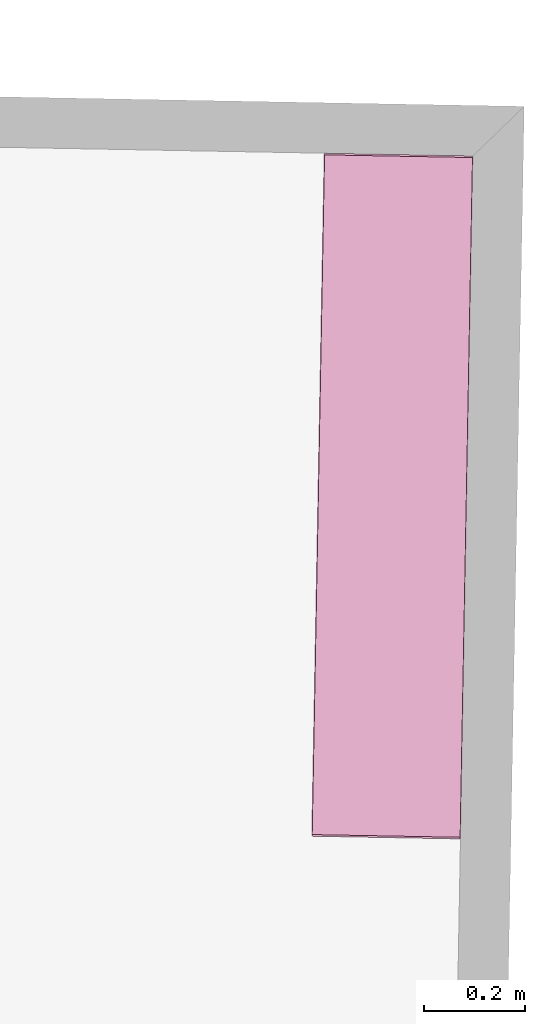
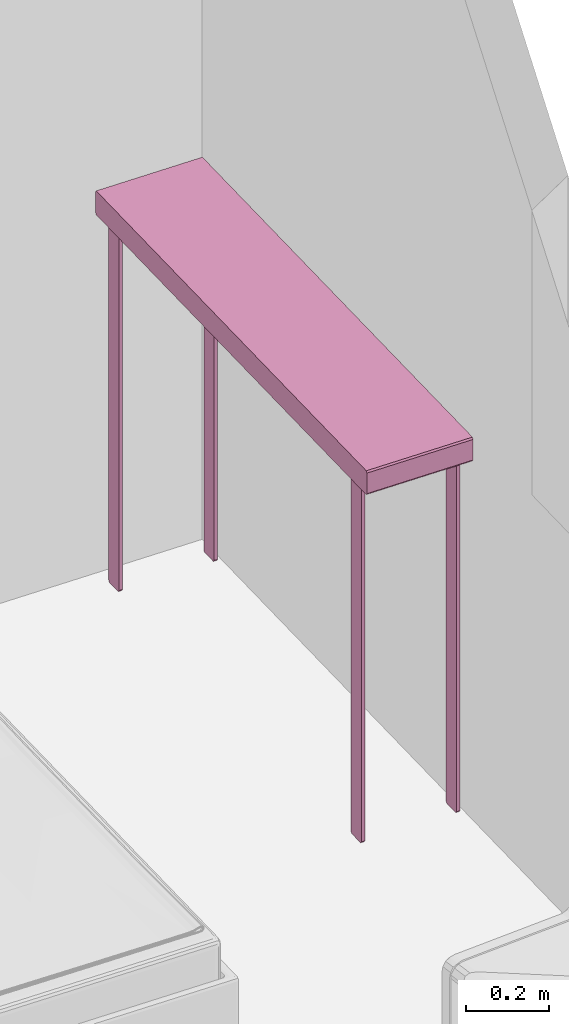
# One storey, part 7 of 9: 1 furnishing.
"""IFC2X3 building model written with IfcOpenShell, lengths in metres."""

import ifcopenshell
import ifcopenshell.guid

model = None  # the IFC model being written
_history = None  # IfcOwnerHistory: only IFC2X3 demands one
_inside = {}  # id of a spatial element -> (the spatial element, [elements in it])
_under = {}  # id of a project, library or spatial element -> (it, [spatial elements below it])
_declared = {}  # id of a project -> (the project, [libraries it declares])
_typed = {}  # id of a type object -> (the type object, [elements of that type])
_made_of = {}  # id of a material, layer set ... -> (it, [elements and type objects made of it])


def new_model(schema):
    """Start an empty IFC model of exactly this schema.

    Asked for "IFC4X3", IfcOpenShell would pick the latest addendum, in which some entities
    have other attributes; the version numbers below select the first issue.
    IFC2X3 requires an IfcOwnerHistory on every rooted entity: one is made here for all.
    """
    global model, _history
    if schema == "IFC4X3":
        model = ifcopenshell.file(schema_version=(4, 3, 0, 0))
    else:
        model = ifcopenshell.file(schema=schema)
    _inside.clear()
    _under.clear()
    _declared.clear()
    _typed.clear()
    _made_of.clear()
    _history = None
    if model.schema == "IFC2X3":
        org = make("IfcOrganization", Name="unknown")
        user = make(
            "IfcPersonAndOrganization",
            ThePerson=make("IfcPerson", FamilyName="unknown"),
            TheOrganization=org,
        )
        app = make(
            "IfcApplication",
            ApplicationDeveloper=org,
            Version="unknown",
            ApplicationFullName="unknown",
            ApplicationIdentifier="unknown",
        )
        _history = make(
            "IfcOwnerHistory",
            OwningUser=user,
            OwningApplication=app,
            ChangeAction="ADDED",
            CreationDate=0,
        )
    return model


def make(cls, **values):
    """One entity of the class cls with the attributes given. An attribute that is None is left unset."""
    return model.create_entity(
        cls, **{name: value for name, value in values.items() if value is not None}
    )


def rooted(cls, **values):
    """An entity with a GlobalId (a new one), such as an element, a storey or a relation."""
    return make(cls, GlobalId=ifcopenshell.guid.new(), OwnerHistory=_history, **values)


def si_unit(unit_type, name, prefix=None):
    """IfcSIUnit, for example si_unit("LENGTHUNIT", "METRE", prefix="MILLI")."""
    return make("IfcSIUnit", UnitType=unit_type, Prefix=prefix, Name=name)


def assignment(units):
    """IfcUnitAssignment: the units of a project."""
    return None if units is None else make("IfcUnitAssignment", Units=units)


def point(xyz):
    """IfcCartesianPoint."""
    return None if xyz is None else make("IfcCartesianPoint", Coordinates=xyz)


def direction(xyz):
    """IfcDirection."""
    return None if xyz is None else make("IfcDirection", DirectionRatios=xyz)


def frame(location, z_axis=None, x_axis=None):
    """IfcAxis2Placement3D, a coordinate frame: its origin and axes. An axis left out is left unset."""
    return make(
        "IfcAxis2Placement3D",
        Location=point(location),
        Axis=direction(z_axis),
        RefDirection=direction(x_axis),
    )


def origin_with_axes():
    """The frame at (0, 0, 0) with the z axis (0, 0, 1) and the x axis (1, 0, 0) written out."""
    return frame((0.0, 0.0, 0.0), z_axis=(0.0, 0.0, 1.0), x_axis=(1.0, 0.0, 0.0))


def place(relative_to, where):
    """IfcLocalPlacement: puts the frame where relative to a parent placement (None: the world)."""
    return make(
        "IfcLocalPlacement", PlacementRelTo=relative_to, RelativePlacement=where
    )


def context(
    kind, dimensions, precision=None, world=None, true_north=None, identifier=None
):
    """IfcGeometricRepresentationContext, for example the 3D "Model" context."""
    return make(
        "IfcGeometricRepresentationContext",
        ContextIdentifier=identifier,
        ContextType=kind,
        CoordinateSpaceDimension=dimensions,
        Precision=precision,
        WorldCoordinateSystem=world,
        TrueNorth=true_north,
    )


def project(units=None, contexts=None):
    """IfcProject with its units and contexts."""
    return rooted(
        "IfcProject",
        Name="project",
        RepresentationContexts=contexts,
        UnitsInContext=assignment(units),
    )


def spatial(cls, under=None, at=None, **own):
    """A site, building, storey or space (cls), placed at a placement, below another one or the project."""
    s = rooted(cls, ObjectPlacement=at, **own)
    if under is not None:
        _under.setdefault(under.id(), (under, []))[1].append(s)
    return s


def faces_of(points, faces, orient=None, outer=None):
    """IfcFace entities. A face is a list of loops; a loop is a list of indices into points, from 0.

    orient and outer hold one flag for each loop. By default every Orientation is true, the
    first loop of a face is its IfcFaceOuterBound and the others are IfcFaceBound.
    """
    made = []
    for i, loops in enumerate(faces):
        bounds = []
        for j, loop in enumerate(loops):
            is_outer = j == 0 if outer is None else outer[i][j]
            bounds.append(
                make(
                    "IfcFaceOuterBound" if is_outer else "IfcFaceBound",
                    Bound=make("IfcPolyLoop", Polygon=[points[k] for k in loop]),
                    Orientation=True if orient is None else orient[i][j],
                )
            )
        made.append(make("IfcFace", Bounds=bounds))
    return made


def faceted_brep(points, faces, orient=None, outer=None, voids=None):
    """IfcFacetedBrep: a solid bounded by flat faces; with voids (closed shells), ...WithVoids."""
    shared = [point(p) for p in points]
    hull = make("IfcClosedShell", CfsFaces=faces_of(shared, faces, orient, outer))
    if voids is None:
        return make("IfcFacetedBrep", Outer=hull)
    return make(
        "IfcFacetedBrepWithVoids",
        Outer=hull,
        Voids=[
            make(cls, CfsFaces=faces_of(shared, fs, o, b)) for cls, fs, o, b in voids
        ],
    )


def shape(context_of_items, identifier, shape_type, items):
    """IfcShapeRepresentation: the items that make up one representation, for example the "Body"."""
    return make(
        "IfcShapeRepresentation",
        ContextOfItems=context_of_items,
        RepresentationIdentifier=identifier,
        RepresentationType=shape_type,
        Items=items,
    )


def made_of(thing, what):
    """Note that an element or type object is made of a material, layer set ...; save() writes the relation."""
    if what is not None:
        _made_of.setdefault(what.id(), (what, []))[1].append(thing)
    return thing


def type_object(cls, material=None, **own):
    """A type object (cls), such as IfcWallType, which elements share."""
    return made_of(rooted(cls, **own), material)


def element(
    cls,
    number,
    at=None,
    inside=None,
    cuts=None,
    type_object=None,
    material=None,
    context=None,
    identifier="Body",
    shape_type=None,
    held_by="IfcProductDefinitionShape",
    body=None,
    shapes=None,
    **own,
):
    """One element of the class cls, such as IfcWall. Its Tag is "e" and its number.

    at: its placement. inside: the storey or other place that contains it. cuts: it is an
    opening in that element (IfcRelVoidsElement). A single representation is given by context,
    identifier, shape_type and body (its items); several are given by shapes. held_by: the class
    of the entity that holds the representations. save() writes the other relations.
    """
    e = rooted(cls, Tag="e%d" % number, ObjectPlacement=at, **own)
    if body is not None:
        shapes = [shape(context, identifier, shape_type, body)]
    if shapes is not None:
        e.Representation = make(held_by, Representations=shapes)
    if inside is not None:
        _inside.setdefault(inside.id(), (inside, []))[1].append(e)
    if cuts is not None:
        rooted(
            "IfcRelVoidsElement", RelatingBuildingElement=cuts, RelatedOpeningElement=e
        )
    if type_object is not None:
        _typed.setdefault(type_object.id(), (type_object, []))[1].append(e)
    return made_of(e, material)


def aggregate(whole, parts):
    """IfcRelAggregates: a whole, such as a stair, and the parts it consists of."""
    return rooted("IfcRelAggregates", RelatingObject=whole, RelatedObjects=parts)


def save(model, path):
    """Write the relations noted so far, then the file.

    IfcRelAggregates (storeys below a building ...), IfcRelContainedInSpatialStructure (elements
    in a storey), IfcRelDefinesByType, IfcRelAssociatesMaterial and IfcRelDeclares: one each for
    every whole, place, type object, material and project.
    """
    for whole, parts in _under.values():
        aggregate(whole, parts)
    for where, things in _inside.values():
        rooted(
            "IfcRelContainedInSpatialStructure",
            RelatedElements=things,
            RelatingStructure=where,
        )
    for kind, things in _typed.values():
        rooted("IfcRelDefinesByType", RelatedObjects=things, RelatingType=kind)
    for what, things in _made_of.values():
        rooted("IfcRelAssociatesMaterial", RelatedObjects=things, RelatingMaterial=what)
    for by, libraries in _declared.values():
        rooted("IfcRelDeclares", RelatingContext=by, RelatedDefinitions=libraries)
    model.write(path)


model = new_model("IFC2X3")

# Units and contexts
model_context = context("Model", 3, precision=1e-05, world=origin_with_axes())
ifc_project = project(units=[si_unit("AREAUNIT", "SQUARE_METRE"), si_unit("LENGTHUNIT", "METRE")], contexts=[model_context])

# Site, building, storey, space
site_placement = place(None, origin_with_axes())
site = spatial("IfcSite", under=ifc_project, at=site_placement, Name="Site", CompositionType="ELEMENT")
building_placement = place(site_placement, origin_with_axes())
building = spatial("IfcBuilding", under=site, at=building_placement, Name="Building", CompositionType="ELEMENT")
storey_placement = place(building_placement, frame((0.0, 0.0, 5.74363407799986), z_axis=(0.0, 0.0, 1.0), x_axis=(1.0, 0.0, 0.0)))
storey = spatial("IfcBuildingStorey", under=building, at=storey_placement, Name="Story 2", CompositionType="ELEMENT", Elevation=5.7436338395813)
space_placement = place(storey_placement, frame((1.55833263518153, -1.03268257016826, 0.0), z_axis=(0.0, 0.0, 1.0), x_axis=(1.0, 0.0, 0.0)))
space = spatial("IfcSpace", under=storey, at=space_placement, Name="013", CompositionType="ELEMENT", InteriorOrExteriorSpace="INTERNAL")

# Furnishing
furniture_type = type_object("IfcFurnitureType", Name="23a3cf47-1044-4fda-8446-77eb6de47aa9")
furnishing_placement = place(space_placement, frame((-0.0966348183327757, 2.8592943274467, 0.565037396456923), z_axis=(0.0, 0.0, 0.999999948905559), x_axis=(-0.999834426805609, 0.0181990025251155, 0.0)))
element("IfcFurnishingElement", 1, at=furnishing_placement, inside=space, type_object=furniture_type, Name="Table", ObjectType="Table", context=model_context, shape_type="Brep", body=[
    faceted_brep([(0.1467, 0.6774, 0.4995), (-0.1467, 0.6774, 0.4995), (0.1467, 0.6774, 0.5601), (-0.1467, 0.6774, 0.5601), (0.1467, 0.6774, 0.5601), (-0.1467, 0.6774, 0.4995), (0.1258, -0.6273, 0.5122), (0.1258, -0.5828, 0.5122), (0.1258, -0.6273, -0.5601), (0.1258, -0.5828, -0.5601), (0.1258, -0.6273, -0.5601), (0.1258, -0.5828, 0.5122), (0.1362, -0.6306, 0.5122), (0.1265, -0.6306, 0.5122), (0.1362, -0.6306, -0.5601), (0.1265, -0.6306, -0.5601), (0.1362, -0.6306, -0.5601), (0.1265, -0.6306, 0.5122), (0.1369, -0.5828, 0.5122), (0.1369, -0.6273, 0.5122), (0.1369, -0.5828, -0.5601), (0.1369, -0.6273, -0.5601), (0.1369, -0.5828, -0.5601), (0.1369, -0.6273, 0.5122), (0.1265, -0.5794, 0.5122), (0.1362, -0.5794, 0.5122), (0.1265, -0.5794, -0.5601), (0.1362, -0.5794, -0.5601), (0.1265, -0.5794, -0.5601), (0.1362, -0.5794, 0.5122), (0.1258, 0.6273, 0.5122), (0.1258, 0.6273, -0.5601), (0.1258, 0.5828, 0.5122), (0.1258, 0.5828, -0.5601), (0.1258, 0.5828, 0.5122), (0.1258, 0.6273, -0.5601), (0.1362, 0.6306, 0.5122), (0.1362, 0.6306, -0.5601), (0.1265, 0.6306, 0.5122), (0.1265, 0.6306, -0.5601), (0.1265, 0.6306, 0.5122), (0.1362, 0.6306, -0.5601), (0.1369, 0.5828, 0.5122), (0.1369, 0.5828, -0.5601), (0.1369, 0.6273, 0.5122), (0.1369, 0.6273, -0.5601), (0.1369, 0.6273, 0.5122), (0.1369, 0.5828, -0.5601), (0.1265, 0.5794, 0.5122), (0.1265, 0.5794, -0.5601), (0.1362, 0.5794, 0.5122), (0.1362, 0.5794, -0.5601), (0.1362, 0.5794, 0.5122), (0.1265, 0.5794, -0.5601), (0.1475, 0.6741, 0.4995), (0.1475, 0.6741, 0.5601), (0.1475, -0.6741, 0.4995), (0.1475, -0.6741, 0.5601), (0.1475, -0.6741, 0.4995), (0.1475, 0.6741, 0.5601), (-0.1475, 0.6741, 0.5601), (-0.1475, 0.6741, 0.4995), (-0.1475, -0.6741, 0.5601), (-0.1475, -0.6741, 0.4995), (-0.1475, -0.6741, 0.5601), (-0.1475, 0.6741, 0.4995), (-0.1258, -0.6273, 0.5122), (-0.1258, -0.6273, -0.5601), (-0.1258, -0.5828, 0.5122), (-0.1258, -0.5828, -0.5601), (-0.1258, -0.5828, 0.5122), (-0.1258, -0.6273, -0.5601), (-0.1362, -0.6306, 0.5122), (-0.1362, -0.6306, -0.5601), (-0.1265, -0.6306, 0.5122), (-0.1265, -0.6306, -0.5601), (-0.1265, -0.6306, 0.5122), (-0.1362, -0.6306, -0.5601), (-0.1369, -0.5828, 0.5122), (-0.1369, -0.5828, -0.5601), (-0.1369, -0.6273, 0.5122), (-0.1369, -0.6273, -0.5601), (-0.1369, -0.6273, 0.5122), (-0.1369, -0.5828, -0.5601), (-0.1265, -0.5794, 0.5122), (-0.1265, -0.5794, -0.5601), (-0.1362, -0.5794, 0.5122), (-0.1362, -0.5794, -0.5601), (-0.1362, -0.5794, 0.5122), (-0.1265, -0.5794, -0.5601), (-0.1258, 0.6273, 0.5122), (-0.1258, 0.5828, 0.5122), (-0.1258, 0.6273, -0.5601), (-0.1258, 0.5828, -0.5601), (-0.1258, 0.6273, -0.5601), (-0.1258, 0.5828, 0.5122), (-0.1362, 0.6306, 0.5122), (-0.1265, 0.6306, 0.5122), (-0.1362, 0.6306, -0.5601), (-0.1265, 0.6306, -0.5601), (-0.1362, 0.6306, -0.5601), (-0.1265, 0.6306, 0.5122), (-0.1369, 0.5828, 0.5122), (-0.1369, 0.6273, 0.5122), (-0.1369, 0.5828, -0.5601), (-0.1369, 0.6273, -0.5601), (-0.1369, 0.5828, -0.5601), (-0.1369, 0.6273, 0.5122), (-0.1265, 0.5794, 0.5122), (-0.1362, 0.5794, 0.5122), (-0.1265, 0.5794, -0.5601), (-0.1362, 0.5794, -0.5601), (-0.1265, 0.5794, -0.5601), (-0.1362, 0.5794, 0.5122), (-0.1467, 0.6741, 0.565), (-0.1467, -0.6741, 0.565), (0.1467, 0.6741, 0.565), (0.1467, -0.6741, 0.565), (0.1467, 0.6741, 0.565), (-0.1467, -0.6741, 0.565), (0.1467, -0.6774, 0.4995), (0.1467, -0.6774, 0.5601), (-0.1467, -0.6774, 0.4995), (-0.1467, -0.6774, 0.5601), (-0.1467, -0.6774, 0.4995), (0.1467, -0.6774, 0.5601), (0.1467, -0.6741, 0.4945), (-0.1467, -0.6741, 0.4945), (0.1467, 0.6741, 0.4945), (-0.1467, 0.6741, 0.4945), (0.1467, 0.6741, 0.4945), (-0.1467, -0.6741, 0.4945), (0.1362, -0.6273, 0.5172), (0.1362, -0.5828, 0.5172), (0.1265, -0.6273, 0.5172), (0.1265, -0.5828, 0.5172), (0.1265, -0.6273, 0.5172), (0.1362, -0.5828, 0.5172), (0.1362, -0.5828, -0.565), (0.1362, -0.6273, -0.565), (0.1265, -0.5828, -0.565), (0.1265, -0.6273, -0.565), (0.1265, -0.5828, -0.565), (0.1362, -0.6273, -0.565), (0.1362, 0.6273, -0.565), (0.1362, 0.5828, -0.565), (0.1265, 0.6273, -0.565), (0.1265, 0.5828, -0.565), (0.1265, 0.6273, -0.565), (0.1362, 0.5828, -0.565), (0.1362, 0.5828, 0.5172), (0.1362, 0.6273, 0.5172), (0.1265, 0.5828, 0.5172), (0.1265, 0.6273, 0.5172), (0.1265, 0.5828, 0.5172), (0.1362, 0.6273, 0.5172), (-0.1362, -0.6273, -0.565), (-0.1362, -0.5828, -0.565), (-0.1265, -0.6273, -0.565), (-0.1265, -0.5828, -0.565), (-0.1265, -0.6273, -0.565), (-0.1362, -0.5828, -0.565), (-0.1362, -0.5828, 0.5172), (-0.1362, -0.6273, 0.5172), (-0.1265, -0.5828, 0.5172), (-0.1265, -0.6273, 0.5172), (-0.1265, -0.5828, 0.5172), (-0.1362, -0.6273, 0.5172), (-0.1362, 0.6273, 0.5172), (-0.1362, 0.5828, 0.5172), (-0.1265, 0.6273, 0.5172), (-0.1265, 0.5828, 0.5172), (-0.1265, 0.6273, 0.5172), (-0.1362, 0.5828, 0.5172), (-0.1362, 0.5828, -0.565), (-0.1362, 0.6273, -0.565), (-0.1265, 0.5828, -0.565), (-0.1265, 0.6273, -0.565), (-0.1265, 0.5828, -0.565), (-0.1362, 0.6273, -0.565), (-0.1467, 0.6741, 0.565), (-0.1467, 0.6774, 0.5601), (-0.1475, 0.6741, 0.5601), (0.1265, -0.5828, -0.565), (0.1258, -0.5828, -0.5601), (0.1265, -0.5794, -0.5601), (0.1265, -0.6273, -0.565), (0.1265, -0.6306, -0.5601), (0.1258, -0.6273, -0.5601), (0.1362, -0.6273, -0.565), (0.1369, -0.6273, -0.5601), (0.1362, -0.6306, -0.5601), (0.1362, -0.5828, -0.565), (0.1362, -0.5794, -0.5601), (0.1369, -0.5828, -0.5601), (0.1265, -0.5828, 0.5172), (0.1265, -0.5794, 0.5122), (0.1258, -0.5828, 0.5122), (0.1265, 0.5794, -0.5601), (0.1258, 0.5828, -0.5601), (0.1265, 0.5828, -0.565), (0.1265, 0.6273, 0.5172), (0.1265, 0.6306, 0.5122), (0.1258, 0.6273, 0.5122), (0.1362, 0.6273, 0.5172), (0.1369, 0.6273, 0.5122), (0.1362, 0.6306, 0.5122), (0.1362, 0.5828, 0.5172), (0.1362, 0.5794, 0.5122), (0.1369, 0.5828, 0.5122), (0.1467, -0.6774, 0.5601), (0.1475, -0.6741, 0.5601), (0.1467, -0.6741, 0.565), (0.1467, 0.6741, 0.565), (0.1475, 0.6741, 0.5601), (0.1467, 0.6774, 0.5601), (-0.1467, -0.6774, 0.4995), (-0.1475, -0.6741, 0.4995), (-0.1467, -0.6741, 0.4945), (-0.1467, 0.6741, 0.4945), (-0.1475, 0.6741, 0.4995), (-0.1467, 0.6774, 0.4995), (-0.1265, -0.5794, -0.5601), (-0.1258, -0.5828, -0.5601), (-0.1265, -0.5828, -0.565), (-0.1265, -0.6273, 0.5172), (-0.1265, -0.6306, 0.5122), (-0.1258, -0.6273, 0.5122), (-0.1362, -0.6273, 0.5172), (-0.1369, -0.6273, 0.5122), (-0.1362, -0.6306, 0.5122), (-0.1362, -0.5828, 0.5172), (-0.1362, -0.5794, 0.5122), (-0.1369, -0.5828, 0.5122), (-0.1265, 0.5828, -0.565), (-0.1258, 0.5828, -0.5601), (-0.1265, 0.5794, -0.5601), (-0.1265, 0.6273, -0.565), (-0.1265, 0.6306, -0.5601), (-0.1258, 0.6273, -0.5601), (-0.1362, 0.6273, -0.565), (-0.1369, 0.6273, -0.5601), (-0.1362, 0.6306, -0.5601), (-0.1362, 0.5828, -0.565), (-0.1362, 0.5794, -0.5601), (-0.1369, 0.5828, -0.5601), (-0.1265, 0.5828, 0.5172), (-0.1265, 0.5794, 0.5122), (-0.1258, 0.5828, 0.5122), (-0.1467, -0.6774, 0.5601), (-0.1467, -0.6741, 0.565), (-0.1475, -0.6741, 0.5601), (0.1467, -0.6774, 0.4995), (0.1467, -0.6741, 0.4945), (0.1475, -0.6741, 0.4995), (0.1475, 0.6741, 0.4995), (0.1467, 0.6741, 0.4945), (0.1467, 0.6774, 0.4995), (0.1362, -0.5794, 0.5122), (0.1362, -0.5828, 0.5172), (0.1369, -0.5828, 0.5122), (0.1369, -0.6273, 0.5122), (0.1362, -0.6273, 0.5172), (0.1362, -0.6306, 0.5122), (0.1265, -0.6306, 0.5122), (0.1265, -0.6273, 0.5172), (0.1258, -0.6273, 0.5122), (0.1362, 0.5794, -0.5601), (0.1362, 0.5828, -0.565), (0.1369, 0.5828, -0.5601), (0.1369, 0.6273, -0.5601), (0.1362, 0.6273, -0.565), (0.1362, 0.6306, -0.5601), (0.1265, 0.6306, -0.5601), (0.1265, 0.6273, -0.565), (0.1258, 0.6273, -0.5601), (0.1265, 0.5794, 0.5122), (0.1265, 0.5828, 0.5172), (0.1258, 0.5828, 0.5122), (-0.1362, -0.5794, -0.5601), (-0.1362, -0.5828, -0.565), (-0.1369, -0.5828, -0.5601), (-0.1369, -0.6273, -0.5601), (-0.1362, -0.6273, -0.565), (-0.1362, -0.6306, -0.5601), (-0.1265, -0.6306, -0.5601), (-0.1265, -0.6273, -0.565), (-0.1258, -0.6273, -0.5601), (-0.1265, -0.5794, 0.5122), (-0.1265, -0.5828, 0.5172), (-0.1258, -0.5828, 0.5122), (-0.1362, 0.5794, 0.5122), (-0.1362, 0.5828, 0.5172), (-0.1369, 0.5828, 0.5122), (-0.1369, 0.6273, 0.5122), (-0.1362, 0.6273, 0.5172), (-0.1362, 0.6306, 0.5122), (-0.1265, 0.6306, 0.5122), (-0.1265, 0.6273, 0.5172), (-0.1258, 0.6273, 0.5122), (-0.1467, 0.6774, 0.5601), (-0.1467, 0.6774, 0.4995), (-0.1475, 0.6741, 0.5601), (-0.1475, 0.6741, 0.4995), (-0.1475, 0.6741, 0.5601), (-0.1467, 0.6774, 0.4995), (-0.1467, 0.6774, 0.4995), (0.1467, 0.6774, 0.4995), (-0.1467, 0.6741, 0.4945), (0.1467, 0.6741, 0.4945), (-0.1467, 0.6741, 0.4945), (0.1467, 0.6774, 0.4995), (0.1467, 0.6774, 0.4995), (0.1467, 0.6774, 0.5601), (0.1475, 0.6741, 0.4995), (0.1475, 0.6741, 0.5601), (0.1475, 0.6741, 0.4995), (0.1467, 0.6774, 0.5601), (0.1467, 0.6774, 0.5601), (-0.1467, 0.6774, 0.5601), (0.1467, 0.6741, 0.565), (-0.1467, 0.6741, 0.565), (0.1467, 0.6741, 0.565), (-0.1467, 0.6774, 0.5601), (0.1258, -0.5828, -0.5601), (0.1258, -0.5828, 0.5122), (0.1265, -0.5794, -0.5601), (0.1265, -0.5794, 0.5122), (0.1265, -0.5794, -0.5601), (0.1258, -0.5828, 0.5122), (0.1258, -0.5828, 0.5122), (0.1258, -0.6273, 0.5122), (0.1265, -0.5828, 0.5172), (0.1265, -0.6273, 0.5172), (0.1265, -0.5828, 0.5172), (0.1258, -0.6273, 0.5122), (0.1258, -0.6273, 0.5122), (0.1258, -0.6273, -0.5601), (0.1265, -0.6306, 0.5122), (0.1265, -0.6306, -0.5601), (0.1265, -0.6306, 0.5122), (0.1258, -0.6273, -0.5601), (0.1258, -0.6273, -0.5601), (0.1258, -0.5828, -0.5601), (0.1265, -0.6273, -0.565), (0.1265, -0.5828, -0.565), (0.1265, -0.6273, -0.565), (0.1258, -0.5828, -0.5601), (0.1265, -0.6306, 0.5122), (0.1362, -0.6306, 0.5122), (0.1265, -0.6273, 0.5172), (0.1362, -0.6273, 0.5172), (0.1265, -0.6273, 0.5172), (0.1362, -0.6306, 0.5122), (0.1362, -0.6306, 0.5122), (0.1362, -0.6306, -0.5601), (0.1369, -0.6273, 0.5122), (0.1369, -0.6273, -0.5601), (0.1369, -0.6273, 0.5122), (0.1362, -0.6306, -0.5601), (0.1362, -0.6306, -0.5601), (0.1265, -0.6306, -0.5601), (0.1362, -0.6273, -0.565), (0.1265, -0.6273, -0.565), (0.1362, -0.6273, -0.565), (0.1265, -0.6306, -0.5601), (0.1369, -0.6273, 0.5122), (0.1369, -0.5828, 0.5122), (0.1362, -0.6273, 0.5172), (0.1362, -0.5828, 0.5172), (0.1362, -0.6273, 0.5172), (0.1369, -0.5828, 0.5122), (0.1369, -0.5828, 0.5122), (0.1369, -0.5828, -0.5601), (0.1362, -0.5794, 0.5122), (0.1362, -0.5794, -0.5601), (0.1362, -0.5794, 0.5122), (0.1369, -0.5828, -0.5601), (0.1369, -0.5828, -0.5601), (0.1369, -0.6273, -0.5601), (0.1362, -0.5828, -0.565), (0.1362, -0.6273, -0.565), (0.1362, -0.5828, -0.565), (0.1369, -0.6273, -0.5601), (0.1362, -0.5794, 0.5122), (0.1265, -0.5794, 0.5122), (0.1362, -0.5828, 0.5172), (0.1265, -0.5828, 0.5172), (0.1362, -0.5828, 0.5172), (0.1265, -0.5794, 0.5122), (0.1265, -0.5794, -0.5601), (0.1362, -0.5794, -0.5601), (0.1265, -0.5828, -0.565), (0.1362, -0.5828, -0.565), (0.1265, -0.5828, -0.565), (0.1362, -0.5794, -0.5601), (0.1258, 0.5828, -0.5601), (0.1258, 0.6273, -0.5601), (0.1265, 0.5828, -0.565), (0.1265, 0.6273, -0.565), (0.1265, 0.5828, -0.565), (0.1258, 0.6273, -0.5601), (0.1258, 0.6273, -0.5601), (0.1258, 0.6273, 0.5122), (0.1265, 0.6306, -0.5601), (0.1265, 0.6306, 0.5122), (0.1265, 0.6306, -0.5601), (0.1258, 0.6273, 0.5122), (0.1258, 0.6273, 0.5122), (0.1258, 0.5828, 0.5122), (0.1265, 0.6273, 0.5172), (0.1265, 0.5828, 0.5172), (0.1265, 0.6273, 0.5172), (0.1258, 0.5828, 0.5122), (0.1258, 0.5828, 0.5122), (0.1258, 0.5828, -0.5601), (0.1265, 0.5794, 0.5122), (0.1265, 0.5794, -0.5601), (0.1265, 0.5794, 0.5122), (0.1258, 0.5828, -0.5601), (0.1265, 0.6306, -0.5601), (0.1362, 0.6306, -0.5601), (0.1265, 0.6273, -0.565), (0.1362, 0.6273, -0.565), (0.1265, 0.6273, -0.565), (0.1362, 0.6306, -0.5601), (0.1362, 0.6306, -0.5601), (0.1362, 0.6306, 0.5122), (0.1369, 0.6273, -0.5601), (0.1369, 0.6273, 0.5122), (0.1369, 0.6273, -0.5601), (0.1362, 0.6306, 0.5122), (0.1362, 0.6306, 0.5122), (0.1265, 0.6306, 0.5122), (0.1362, 0.6273, 0.5172), (0.1265, 0.6273, 0.5172), (0.1362, 0.6273, 0.5172), (0.1265, 0.6306, 0.5122), (0.1369, 0.6273, -0.5601), (0.1369, 0.5828, -0.5601), (0.1362, 0.6273, -0.565), (0.1362, 0.5828, -0.565), (0.1362, 0.6273, -0.565), (0.1369, 0.5828, -0.5601), (0.1369, 0.5828, -0.5601), (0.1369, 0.5828, 0.5122), (0.1362, 0.5794, -0.5601), (0.1362, 0.5794, 0.5122), (0.1362, 0.5794, -0.5601), (0.1369, 0.5828, 0.5122), (0.1369, 0.5828, 0.5122), (0.1369, 0.6273, 0.5122), (0.1362, 0.5828, 0.5172), (0.1362, 0.6273, 0.5172), (0.1362, 0.5828, 0.5172), (0.1369, 0.6273, 0.5122), (0.1362, 0.5794, -0.5601), (0.1265, 0.5794, -0.5601), (0.1362, 0.5828, -0.565), (0.1265, 0.5828, -0.565), (0.1362, 0.5828, -0.565), (0.1265, 0.5794, -0.5601), (0.1265, 0.5794, 0.5122), (0.1362, 0.5794, 0.5122), (0.1265, 0.5828, 0.5172), (0.1362, 0.5828, 0.5172), (0.1265, 0.5828, 0.5172), (0.1362, 0.5794, 0.5122), (0.1475, -0.6741, 0.5601), (0.1475, 0.6741, 0.5601), (0.1467, -0.6741, 0.565), (0.1467, 0.6741, 0.565), (0.1467, -0.6741, 0.565), (0.1475, 0.6741, 0.5601), (0.1475, 0.6741, 0.4995), (0.1475, -0.6741, 0.4995), (0.1467, 0.6741, 0.4945), (0.1467, -0.6741, 0.4945), (0.1467, 0.6741, 0.4945), (0.1475, -0.6741, 0.4995), (0.1475, -0.6741, 0.4995), (0.1475, -0.6741, 0.5601), (0.1467, -0.6774, 0.4995), (0.1467, -0.6774, 0.5601), (0.1467, -0.6774, 0.4995), (0.1475, -0.6741, 0.5601), (-0.1475, -0.6741, 0.4995), (-0.1475, 0.6741, 0.4995), (-0.1467, -0.6741, 0.4945), (-0.1467, 0.6741, 0.4945), (-0.1467, -0.6741, 0.4945), (-0.1475, 0.6741, 0.4995), (-0.1475, 0.6741, 0.5601), (-0.1475, -0.6741, 0.5601), (-0.1467, 0.6741, 0.565), (-0.1467, -0.6741, 0.565), (-0.1467, 0.6741, 0.565), (-0.1475, -0.6741, 0.5601), (-0.1475, -0.6741, 0.5601), (-0.1475, -0.6741, 0.4995), (-0.1467, -0.6774, 0.5601), (-0.1467, -0.6774, 0.4995), (-0.1467, -0.6774, 0.5601), (-0.1475, -0.6741, 0.4995), (-0.1258, -0.5828, -0.5601), (-0.1258, -0.6273, -0.5601), (-0.1265, -0.5828, -0.565), (-0.1265, -0.6273, -0.565), (-0.1265, -0.5828, -0.565), (-0.1258, -0.6273, -0.5601), (-0.1258, -0.6273, -0.5601), (-0.1258, -0.6273, 0.5122), (-0.1265, -0.6306, -0.5601), (-0.1265, -0.6306, 0.5122), (-0.1265, -0.6306, -0.5601), (-0.1258, -0.6273, 0.5122), (-0.1258, -0.6273, 0.5122), (-0.1258, -0.5828, 0.5122), (-0.1265, -0.6273, 0.5172), (-0.1265, -0.5828, 0.5172), (-0.1265, -0.6273, 0.5172), (-0.1258, -0.5828, 0.5122), (-0.1258, -0.5828, 0.5122), (-0.1258, -0.5828, -0.5601), (-0.1265, -0.5794, 0.5122), (-0.1265, -0.5794, -0.5601), (-0.1265, -0.5794, 0.5122), (-0.1258, -0.5828, -0.5601), (-0.1265, -0.6306, -0.5601), (-0.1362, -0.6306, -0.5601), (-0.1265, -0.6273, -0.565), (-0.1362, -0.6273, -0.565), (-0.1265, -0.6273, -0.565), (-0.1362, -0.6306, -0.5601), (-0.1362, -0.6306, -0.5601), (-0.1362, -0.6306, 0.5122), (-0.1369, -0.6273, -0.5601), (-0.1369, -0.6273, 0.5122), (-0.1369, -0.6273, -0.5601), (-0.1362, -0.6306, 0.5122), (-0.1362, -0.6306, 0.5122), (-0.1265, -0.6306, 0.5122), (-0.1362, -0.6273, 0.5172), (-0.1265, -0.6273, 0.5172), (-0.1362, -0.6273, 0.5172), (-0.1265, -0.6306, 0.5122), (-0.1369, -0.6273, -0.5601), (-0.1369, -0.5828, -0.5601), (-0.1362, -0.6273, -0.565), (-0.1362, -0.5828, -0.565), (-0.1362, -0.6273, -0.565), (-0.1369, -0.5828, -0.5601), (-0.1369, -0.5828, -0.5601), (-0.1369, -0.5828, 0.5122), (-0.1362, -0.5794, -0.5601), (-0.1362, -0.5794, 0.5122), (-0.1362, -0.5794, -0.5601), (-0.1369, -0.5828, 0.5122), (-0.1369, -0.5828, 0.5122), (-0.1369, -0.6273, 0.5122), (-0.1362, -0.5828, 0.5172), (-0.1362, -0.6273, 0.5172), (-0.1362, -0.5828, 0.5172), (-0.1369, -0.6273, 0.5122), (-0.1362, -0.5794, -0.5601), (-0.1265, -0.5794, -0.5601), (-0.1362, -0.5828, -0.565), (-0.1265, -0.5828, -0.565), (-0.1362, -0.5828, -0.565), (-0.1265, -0.5794, -0.5601), (-0.1265, -0.5794, 0.5122), (-0.1362, -0.5794, 0.5122), (-0.1265, -0.5828, 0.5172), (-0.1362, -0.5828, 0.5172), (-0.1265, -0.5828, 0.5172), (-0.1362, -0.5794, 0.5122), (-0.1258, 0.5828, -0.5601), (-0.1258, 0.5828, 0.5122), (-0.1265, 0.5794, -0.5601), (-0.1265, 0.5794, 0.5122), (-0.1265, 0.5794, -0.5601), (-0.1258, 0.5828, 0.5122), (-0.1258, 0.5828, 0.5122), (-0.1258, 0.6273, 0.5122), (-0.1265, 0.5828, 0.5172), (-0.1265, 0.6273, 0.5172), (-0.1265, 0.5828, 0.5172), (-0.1258, 0.6273, 0.5122), (-0.1258, 0.6273, 0.5122), (-0.1258, 0.6273, -0.5601), (-0.1265, 0.6306, 0.5122), (-0.1265, 0.6306, -0.5601), (-0.1265, 0.6306, 0.5122), (-0.1258, 0.6273, -0.5601), (-0.1258, 0.6273, -0.5601), (-0.1258, 0.5828, -0.5601), (-0.1265, 0.6273, -0.565), (-0.1265, 0.5828, -0.565), (-0.1265, 0.6273, -0.565), (-0.1258, 0.5828, -0.5601), (-0.1265, 0.6306, 0.5122), (-0.1362, 0.6306, 0.5122), (-0.1265, 0.6273, 0.5172), (-0.1362, 0.6273, 0.5172), (-0.1265, 0.6273, 0.5172), (-0.1362, 0.6306, 0.5122), (-0.1362, 0.6306, 0.5122), (-0.1362, 0.6306, -0.5601), (-0.1369, 0.6273, 0.5122), (-0.1369, 0.6273, -0.5601), (-0.1369, 0.6273, 0.5122), (-0.1362, 0.6306, -0.5601), (-0.1362, 0.6306, -0.5601), (-0.1265, 0.6306, -0.5601), (-0.1362, 0.6273, -0.565), (-0.1265, 0.6273, -0.565), (-0.1362, 0.6273, -0.565), (-0.1265, 0.6306, -0.5601), (-0.1369, 0.6273, 0.5122), (-0.1369, 0.5828, 0.5122), (-0.1362, 0.6273, 0.5172), (-0.1362, 0.5828, 0.5172), (-0.1362, 0.6273, 0.5172), (-0.1369, 0.5828, 0.5122), (-0.1369, 0.5828, 0.5122), (-0.1369, 0.5828, -0.5601), (-0.1362, 0.5794, 0.5122), (-0.1362, 0.5794, -0.5601), (-0.1362, 0.5794, 0.5122), (-0.1369, 0.5828, -0.5601), (-0.1369, 0.5828, -0.5601), (-0.1369, 0.6273, -0.5601), (-0.1362, 0.5828, -0.565), (-0.1362, 0.6273, -0.565), (-0.1362, 0.5828, -0.565), (-0.1369, 0.6273, -0.5601), (-0.1362, 0.5794, 0.5122), (-0.1265, 0.5794, 0.5122), (-0.1362, 0.5828, 0.5172), (-0.1265, 0.5828, 0.5172), (-0.1362, 0.5828, 0.5172), (-0.1265, 0.5794, 0.5122), (-0.1265, 0.5794, -0.5601), (-0.1362, 0.5794, -0.5601), (-0.1265, 0.5828, -0.565), (-0.1362, 0.5828, -0.565), (-0.1265, 0.5828, -0.565), (-0.1362, 0.5794, -0.5601), (0.1467, -0.6741, 0.565), (-0.1467, -0.6741, 0.565), (0.1467, -0.6774, 0.5601), (-0.1467, -0.6774, 0.5601), (0.1467, -0.6774, 0.5601), (-0.1467, -0.6741, 0.565), (0.1467, -0.6774, 0.4995), (-0.1467, -0.6774, 0.4995), (0.1467, -0.6741, 0.4945), (-0.1467, -0.6741, 0.4945), (0.1467, -0.6741, 0.4945), (-0.1467, -0.6774, 0.4995)], [[[0, 1, 2]], [[3, 4, 5]], [[6, 7, 8]], [[9, 10, 11]], [[12, 13, 14]], [[15, 16, 17]], [[18, 19, 20]], [[21, 22, 23]], [[24, 25, 26]], [[27, 28, 29]], [[30, 31, 32]], [[33, 34, 35]], [[36, 37, 38]], [[39, 40, 41]], [[42, 43, 44]], [[45, 46, 47]], [[48, 49, 50]], [[51, 52, 53]], [[54, 55, 56]], [[57, 58, 59]], [[60, 61, 62]], [[63, 64, 65]], [[66, 67, 68]], [[69, 70, 71]], [[72, 73, 74]], [[75, 76, 77]], [[78, 79, 80]], [[81, 82, 83]], [[84, 85, 86]], [[87, 88, 89]], [[90, 91, 92]], [[93, 94, 95]], [[96, 97, 98]], [[99, 100, 101]], [[102, 103, 104]], [[105, 106, 107]], [[108, 109, 110]], [[111, 112, 113]], [[114, 115, 116]], [[117, 118, 119]], [[120, 121, 122]], [[123, 124, 125]], [[126, 127, 128]], [[129, 130, 131]], [[132, 133, 134]], [[135, 136, 137]], [[138, 139, 140]], [[141, 142, 143]], [[144, 145, 146]], [[147, 148, 149]], [[150, 151, 152]], [[153, 154, 155]], [[156, 157, 158]], [[159, 160, 161]], [[162, 163, 164]], [[165, 166, 167]], [[168, 169, 170]], [[171, 172, 173]], [[174, 175, 176]], [[177, 178, 179]], [[180, 181, 182]], [[183, 184, 185]], [[186, 187, 188]], [[189, 190, 191]], [[192, 193, 194]], [[195, 196, 197]], [[198, 199, 200]], [[201, 202, 203]], [[204, 205, 206]], [[207, 208, 209]], [[210, 211, 212]], [[213, 214, 215]], [[216, 217, 218]], [[219, 220, 221]], [[222, 223, 224]], [[225, 226, 227]], [[228, 229, 230]], [[231, 232, 233]], [[234, 235, 236]], [[237, 238, 239]], [[240, 241, 242]], [[243, 244, 245]], [[246, 247, 248]], [[249, 250, 251]], [[252, 253, 254]], [[255, 256, 257]], [[258, 259, 260]], [[261, 262, 263]], [[264, 265, 266]], [[267, 268, 269]], [[270, 271, 272]], [[273, 274, 275]], [[276, 277, 278]], [[279, 280, 281]], [[282, 283, 284]], [[285, 286, 287]], [[288, 289, 290]], [[291, 292, 293]], [[294, 295, 296]], [[297, 298, 299]], [[300, 301, 302]], [[303, 304, 305]], [[306, 307, 308]], [[309, 310, 311]], [[312, 313, 314]], [[315, 316, 317]], [[318, 319, 320]], [[321, 322, 323]], [[324, 325, 326]], [[327, 328, 329]], [[330, 331, 332]], [[333, 334, 335]], [[336, 337, 338]], [[339, 340, 341]], [[342, 343, 344]], [[345, 346, 347]], [[348, 349, 350]], [[351, 352, 353]], [[354, 355, 356]], [[357, 358, 359]], [[360, 361, 362]], [[363, 364, 365]], [[366, 367, 368]], [[369, 370, 371]], [[372, 373, 374]], [[375, 376, 377]], [[378, 379, 380]], [[381, 382, 383]], [[384, 385, 386]], [[387, 388, 389]], [[390, 391, 392]], [[393, 394, 395]], [[396, 397, 398]], [[399, 400, 401]], [[402, 403, 404]], [[405, 406, 407]], [[408, 409, 410]], [[411, 412, 413]], [[414, 415, 416]], [[417, 418, 419]], [[420, 421, 422]], [[423, 424, 425]], [[426, 427, 428]], [[429, 430, 431]], [[432, 433, 434]], [[435, 436, 437]], [[438, 439, 440]], [[441, 442, 443]], [[444, 445, 446]], [[447, 448, 449]], [[450, 451, 452]], [[453, 454, 455]], [[456, 457, 458]], [[459, 460, 461]], [[462, 463, 464]], [[465, 466, 467]], [[468, 469, 470]], [[471, 472, 473]], [[474, 475, 476]], [[477, 478, 479]], [[480, 481, 482]], [[483, 484, 485]], [[486, 487, 488]], [[489, 490, 491]], [[492, 493, 494]], [[495, 496, 497]], [[498, 499, 500]], [[501, 502, 503]], [[504, 505, 506]], [[507, 508, 509]], [[510, 511, 512]], [[513, 514, 515]], [[516, 517, 518]], [[519, 520, 521]], [[522, 523, 524]], [[525, 526, 527]], [[528, 529, 530]], [[531, 532, 533]], [[534, 535, 536]], [[537, 538, 539]], [[540, 541, 542]], [[543, 544, 545]], [[546, 547, 548]], [[549, 550, 551]], [[552, 553, 554]], [[555, 556, 557]], [[558, 559, 560]], [[561, 562, 563]], [[564, 565, 566]], [[567, 568, 569]], [[570, 571, 572]], [[573, 574, 575]], [[576, 577, 578]], [[579, 580, 581]], [[582, 583, 584]], [[585, 586, 587]], [[588, 589, 590]], [[591, 592, 593]], [[594, 595, 596]], [[597, 598, 599]], [[600, 601, 602]], [[603, 604, 605]], [[606, 607, 608]], [[609, 610, 611]], [[612, 613, 614]], [[615, 616, 617]], [[618, 619, 620]], [[621, 622, 623]], [[624, 625, 626]], [[627, 628, 629]], [[630, 631, 632]], [[633, 634, 635]], [[636, 637, 638]], [[639, 640, 641]], [[642, 643, 644]], [[645, 646, 647]], [[648, 649, 650]], [[651, 652, 653]], [[654, 655, 656]], [[657, 658, 659]]]),
])

save(model, "model.ifc")
